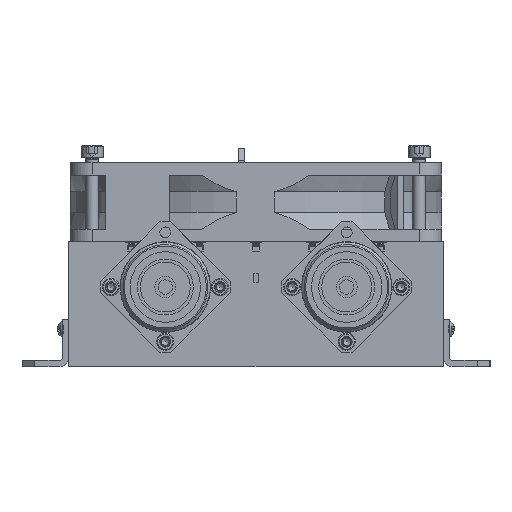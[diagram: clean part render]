
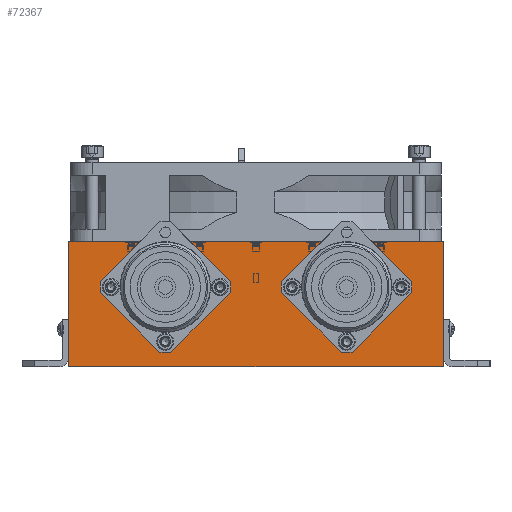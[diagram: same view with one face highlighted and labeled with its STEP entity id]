
A CAD part, left-side view. The second image highlights one B-rep face of the part: STEP entity #72367.
In plain terms, the highlighted planar face has unit normal (-1, 0, 0).
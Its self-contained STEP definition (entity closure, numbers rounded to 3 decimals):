
#1883=LINE('',#133851,#9543);
#1889=LINE('',#133864,#9549);
#1891=LINE('',#133868,#9551);
#1985=LINE('',#134413,#9645);
#1986=LINE('',#134415,#9646);
#1987=LINE('',#134417,#9647);
#1988=LINE('',#134419,#9648);
#1989=LINE('',#134421,#9649);
#1990=LINE('',#134423,#9650);
#1991=LINE('',#134425,#9651);
#1992=LINE('',#134426,#9652);
#1993=LINE('',#134428,#9653);
#1994=LINE('',#134430,#9654);
#1995=LINE('',#134431,#9655);
#1996=LINE('',#134433,#9656);
#1997=LINE('',#134435,#9657);
#1998=LINE('',#134437,#9658);
#1999=LINE('',#134439,#9659);
#2000=LINE('',#134441,#9660);
#2001=LINE('',#134443,#9661);
#9543=VECTOR('',#112913,1000.);
#9549=VECTOR('',#112919,1000.);
#9551=VECTOR('',#112921,1000.);
#9645=VECTOR('',#113435,1000.);
#9646=VECTOR('',#113436,1000.);
#9647=VECTOR('',#113437,1000.);
#9648=VECTOR('',#113438,1000.);
#9649=VECTOR('',#113439,1000.);
#9650=VECTOR('',#113440,1000.);
#9651=VECTOR('',#113441,1000.);
#9652=VECTOR('',#113442,1000.);
#9653=VECTOR('',#113443,1000.);
#9654=VECTOR('',#113444,1000.);
#9655=VECTOR('',#113445,1000.);
#9656=VECTOR('',#113446,1000.);
#9657=VECTOR('',#113447,1000.);
#9658=VECTOR('',#113448,1000.);
#9659=VECTOR('',#113449,1000.);
#9660=VECTOR('',#113450,1000.);
#9661=VECTOR('',#113451,1000.);
#16294=PLANE('',#104151);
#23066=ORIENTED_EDGE('',*,*,#41577,.T.);
#23067=ORIENTED_EDGE('',*,*,#41578,.F.);
#23068=ORIENTED_EDGE('',*,*,#41579,.T.);
#23069=ORIENTED_EDGE('',*,*,#41580,.F.);
#23070=ORIENTED_EDGE('',*,*,#41581,.T.);
#23071=ORIENTED_EDGE('',*,*,#41582,.F.);
#23072=ORIENTED_EDGE('',*,*,#41583,.T.);
#23073=ORIENTED_EDGE('',*,*,#41305,.T.);
#23074=ORIENTED_EDGE('',*,*,#41584,.T.);
#23075=ORIENTED_EDGE('',*,*,#41585,.T.);
#23076=ORIENTED_EDGE('',*,*,#41586,.F.);
#23077=ORIENTED_EDGE('',*,*,#41299,.T.);
#23078=ORIENTED_EDGE('',*,*,#41587,.T.);
#23079=ORIENTED_EDGE('',*,*,#41588,.F.);
#23080=ORIENTED_EDGE('',*,*,#41589,.T.);
#23081=ORIENTED_EDGE('',*,*,#41590,.F.);
#23082=ORIENTED_EDGE('',*,*,#41591,.T.);
#23083=ORIENTED_EDGE('',*,*,#41592,.F.);
#23084=ORIENTED_EDGE('',*,*,#41593,.T.);
#23085=ORIENTED_EDGE('',*,*,#41307,.T.);
#41299=EDGE_CURVE('',#50796,#50797,#1883,.T.);
#41305=EDGE_CURVE('',#50803,#50802,#1889,.T.);
#41307=EDGE_CURVE('',#50805,#50804,#1891,.T.);
#41577=EDGE_CURVE('',#50804,#51046,#1985,.T.);
#41578=EDGE_CURVE('',#51047,#51046,#1986,.T.);
#41579=EDGE_CURVE('',#51047,#51048,#1987,.T.);
#41580=EDGE_CURVE('',#51049,#51048,#1988,.T.);
#41581=EDGE_CURVE('',#51049,#51050,#1989,.T.);
#41582=EDGE_CURVE('',#51051,#51050,#1990,.T.);
#41583=EDGE_CURVE('',#51051,#50803,#1991,.T.);
#41584=EDGE_CURVE('',#50802,#51052,#1992,.T.);
#41585=EDGE_CURVE('',#51052,#51053,#1993,.T.);
#41586=EDGE_CURVE('',#50796,#51053,#1994,.T.);
#41587=EDGE_CURVE('',#50797,#51054,#1995,.T.);
#41588=EDGE_CURVE('',#51055,#51054,#1996,.T.);
#41589=EDGE_CURVE('',#51055,#51056,#1997,.T.);
#41590=EDGE_CURVE('',#51057,#51056,#1998,.T.);
#41591=EDGE_CURVE('',#51057,#51058,#1999,.T.);
#41592=EDGE_CURVE('',#51059,#51058,#2000,.T.);
#41593=EDGE_CURVE('',#51059,#50805,#2001,.T.);
#50796=VERTEX_POINT('',#133852);
#50797=VERTEX_POINT('',#133853);
#50802=VERTEX_POINT('',#133863);
#50803=VERTEX_POINT('',#133865);
#50804=VERTEX_POINT('',#133867);
#50805=VERTEX_POINT('',#133869);
#51046=VERTEX_POINT('',#134414);
#51047=VERTEX_POINT('',#134416);
#51048=VERTEX_POINT('',#134418);
#51049=VERTEX_POINT('',#134420);
#51050=VERTEX_POINT('',#134422);
#51051=VERTEX_POINT('',#134424);
#51052=VERTEX_POINT('',#134427);
#51053=VERTEX_POINT('',#134429);
#51054=VERTEX_POINT('',#134432);
#51055=VERTEX_POINT('',#134434);
#51056=VERTEX_POINT('',#134436);
#51057=VERTEX_POINT('',#134438);
#51058=VERTEX_POINT('',#134440);
#51059=VERTEX_POINT('',#134442);
#59762=EDGE_LOOP('',(#23066,#23067,#23068,#23069,#23070,#23071,#23072,#23073,
#23074,#23075,#23076,#23077,#23078,#23079,#23080,#23081,#23082,#23083,#23084,
#23085));
#65926=FACE_BOUND('',#59762,.T.);
#72367=ADVANCED_FACE('',(#65926),#16294,.T.);
#104151=AXIS2_PLACEMENT_3D('',#134412,#113433,#113434);
#112913=DIRECTION('',(0.,1.,0.));
#112919=DIRECTION('',(0.,1.,0.));
#112921=DIRECTION('',(0.,1.,0.));
#113433=DIRECTION('',(-1.,0.,0.));
#113434=DIRECTION('',(0.,0.,1.));
#113435=DIRECTION('',(0.,-0.707,-0.707));
#113436=DIRECTION('',(0.,0.,1.));
#113437=DIRECTION('',(0.,0.707,-0.707));
#113438=DIRECTION('',(0.,-1.,0.));
#113439=DIRECTION('',(0.,0.707,0.707));
#113440=DIRECTION('',(0.,0.,-1.));
#113441=DIRECTION('',(0.,-0.707,0.707));
#113442=DIRECTION('',(0.,0.,-1.));
#113443=DIRECTION('',(0.,-1.,0.));
#113444=DIRECTION('',(0.,0.,-1.));
#113445=DIRECTION('',(0.,-0.707,-0.707));
#113446=DIRECTION('',(0.,0.,1.));
#113447=DIRECTION('',(0.,0.707,-0.707));
#113448=DIRECTION('',(0.,-1.,0.));
#113449=DIRECTION('',(0.,0.707,0.707));
#113450=DIRECTION('',(0.,0.,-1.));
#113451=DIRECTION('',(0.,-0.707,0.707));
#133851=CARTESIAN_POINT('',(-516.435,-60.,35.));
#133852=CARTESIAN_POINT('',(-516.435,-60.,35.));
#133853=CARTESIAN_POINT('',(-516.435,-37.197,35.));
#133863=CARTESIAN_POINT('',(-516.435,60.,35.));
#133864=CARTESIAN_POINT('',(-516.435,-60.,35.));
#133865=CARTESIAN_POINT('',(-516.435,37.197,35.));
#133867=CARTESIAN_POINT('',(-516.435,20.943,35.));
#133868=CARTESIAN_POINT('',(-516.435,-60.,35.));
#133869=CARTESIAN_POINT('',(-516.435,-20.943,35.));
#134412=CARTESIAN_POINT('',(-516.435,-60.,35.));
#134413=CARTESIAN_POINT('',(-516.435,29.07,43.127));
#134414=CARTESIAN_POINT('',(-516.435,8.17,22.227));
#134415=CARTESIAN_POINT('',(-516.435,8.17,18.773));
#134416=CARTESIAN_POINT('',(-516.435,8.17,18.773));
#134417=CARTESIAN_POINT('',(-516.435,6.443,20.5));
#134418=CARTESIAN_POINT('',(-516.435,27.343,-0.4));
#134419=CARTESIAN_POINT('',(-516.435,30.797,-0.4));
#134420=CARTESIAN_POINT('',(-516.435,30.797,-0.4));
#134421=CARTESIAN_POINT('',(-516.435,29.07,-2.127));
#134422=CARTESIAN_POINT('',(-516.435,49.97,18.773));
#134423=CARTESIAN_POINT('',(-516.435,49.97,22.227));
#134424=CARTESIAN_POINT('',(-516.435,49.97,22.227));
#134425=CARTESIAN_POINT('',(-516.435,51.697,20.5));
#134426=CARTESIAN_POINT('',(-516.435,60.,35.));
#134427=CARTESIAN_POINT('',(-516.435,60.,-5.));
#134428=CARTESIAN_POINT('',(-516.435,60.,-5.));
#134429=CARTESIAN_POINT('',(-516.435,-60.,-5.));
#134430=CARTESIAN_POINT('',(-516.435,-60.,35.));
#134431=CARTESIAN_POINT('',(-516.435,-29.07,43.127));
#134432=CARTESIAN_POINT('',(-516.435,-49.97,22.227));
#134433=CARTESIAN_POINT('',(-516.435,-49.97,18.773));
#134434=CARTESIAN_POINT('',(-516.435,-49.97,18.773));
#134435=CARTESIAN_POINT('',(-516.435,-51.697,20.5));
#134436=CARTESIAN_POINT('',(-516.435,-30.797,-0.4));
#134437=CARTESIAN_POINT('',(-516.435,-27.343,-0.4));
#134438=CARTESIAN_POINT('',(-516.435,-27.343,-0.4));
#134439=CARTESIAN_POINT('',(-516.435,-29.07,-2.127));
#134440=CARTESIAN_POINT('',(-516.435,-8.17,18.773));
#134441=CARTESIAN_POINT('',(-516.435,-8.17,22.227));
#134442=CARTESIAN_POINT('',(-516.435,-8.17,22.227));
#134443=CARTESIAN_POINT('',(-516.435,-6.443,20.5));
